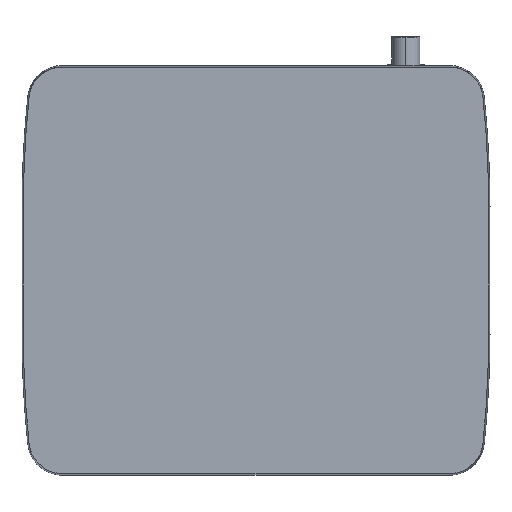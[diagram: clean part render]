
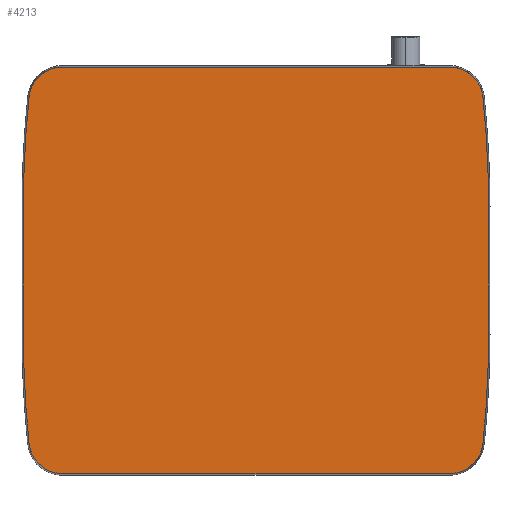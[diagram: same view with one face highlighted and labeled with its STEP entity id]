
A CAD part, top view. The second image highlights one B-rep face of the part: STEP entity #4213.
In plain terms, the highlighted planar face has unit normal (0, 0, 1).
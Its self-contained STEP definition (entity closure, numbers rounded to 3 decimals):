
#29 = EDGE_LOOP ( 'NONE', ( #4471, #1326, #7029, #5196, #6740, #6282, #7247, #358, #3470, #7224, #1792, #5540 ) ) ;
#69 = DIRECTION ( 'NONE',  ( 1., 0., 0. ) ) ;
#147 = AXIS2_PLACEMENT_3D ( 'NONE', #6494, #3101, #7058 ) ;
#223 = CIRCLE ( 'NONE', #717, 14.389 ) ;
#290 = DIRECTION ( 'NONE',  ( -1., 0., 0. ) ) ;
#342 = CARTESIAN_POINT ( 'NONE',  ( 99.248, 7.968, 35. ) ) ;
#358 = ORIENTED_EDGE ( 'NONE', *, *, #425, .T. ) ;
#425 = EDGE_CURVE ( 'NONE', #6974, #668, #2816, .T. ) ;
#487 = DIRECTION ( 'NONE',  ( 0., 0., 1. ) ) ;
#607 = CARTESIAN_POINT ( 'NONE',  ( 96.989, 73.982, 35. ) ) ;
#668 = VERTEX_POINT ( 'NONE', #1586 ) ;
#717 = AXIS2_PLACEMENT_3D ( 'NONE', #3179, #7129, #3752 ) ;
#889 = VECTOR ( 'NONE', #290, 1000. ) ;
#898 = CIRCLE ( 'NONE', #1467, 451.374 ) ;
#911 = EDGE_CURVE ( 'NONE', #6176, #4992, #5938, .T. ) ;
#996 = VERTEX_POINT ( 'NONE', #6996 ) ;
#1013 = DIRECTION ( 'NONE',  ( 0., 0., 1. ) ) ;
#1020 = DIRECTION ( 'NONE',  ( 0., 0., 1. ) ) ;
#1065 = AXIS2_PLACEMENT_3D ( 'NONE', #6356, #2984, #6925 ) ;
#1326 = ORIENTED_EDGE ( 'NONE', *, *, #3651, .T. ) ;
#1438 = EDGE_CURVE ( 'NONE', #5011, #1884, #4438, .T. ) ;
#1451 = EDGE_CURVE ( 'NONE', #2453, #6892, #5934, .T. ) ;
#1467 = AXIS2_PLACEMENT_3D ( 'NONE', #6861, #3479, #69 ) ;
#1484 = CARTESIAN_POINT ( 'NONE',  ( 99.375, 23.903, 35. ) ) ;
#1557 = CARTESIAN_POINT ( 'NONE',  ( -82.677, 72.5, 35. ) ) ;
#1586 = CARTESIAN_POINT ( 'NONE',  ( 99.375, 23.903, 35. ) ) ;
#1621 = CIRCLE ( 'NONE', #1065, 451.374 ) ;
#1691 = CIRCLE ( 'NONE', #7025, 451.374 ) ;
#1792 = ORIENTED_EDGE ( 'NONE', *, *, #6514, .T. ) ;
#1840 = CARTESIAN_POINT ( 'NONE',  ( 82.677, -86.889, 35. ) ) ;
#1846 = CARTESIAN_POINT ( 'NONE',  ( -82.677, -86.889, 35. ) ) ;
#1884 = VERTEX_POINT ( 'NONE', #3380 ) ;
#1956 = CARTESIAN_POINT ( 'NONE',  ( -99.248, -7.968, 35. ) ) ;
#2127 = DIRECTION ( 'NONE',  ( 1., 0., 0. ) ) ;
#2250 = EDGE_CURVE ( 'NONE', #996, #6176, #223, .T. ) ;
#2264 = CIRCLE ( 'NONE', #147, 451.374 ) ;
#2309 = VERTEX_POINT ( 'NONE', #6096 ) ;
#2331 = CIRCLE ( 'NONE', #4420, 14.389 ) ;
#2355 = CARTESIAN_POINT ( 'NONE',  ( 82.677, 86.889, 35. ) ) ;
#2423 = CARTESIAN_POINT ( 'NONE',  ( -82.677, 86.889, 35. ) ) ;
#2453 = VERTEX_POINT ( 'NONE', #607 ) ;
#2633 = DIRECTION ( 'NONE',  ( 0., 0., 1. ) ) ;
#2782 = CARTESIAN_POINT ( 'NONE',  ( -82.677, -86.889, 35. ) ) ;
#2816 = B_SPLINE_CURVE_WITH_KNOTS ( 'NONE', 3,
 ( #4884, #5982, #342, #1484 ),
 .UNSPECIFIED., .F., .F.,
 ( 4, 4 ),
 ( 0., 0.048 ),
 .UNSPECIFIED. ) ;
#2984 = DIRECTION ( 'NONE',  ( 0., 0., 1. ) ) ;
#2997 = AXIS2_PLACEMENT_3D ( 'NONE', #6024, #2633, #6584 ) ;
#3007 = CARTESIAN_POINT ( 'NONE',  ( 99.375, -23.903, 35. ) ) ;
#3101 = DIRECTION ( 'NONE',  ( 0., 0., 1. ) ) ;
#3144 = PLANE ( 'NONE',  #2997 ) ;
#3179 = CARTESIAN_POINT ( 'NONE',  ( -82.677, -72.5, 35. ) ) ;
#3343 = EDGE_CURVE ( 'NONE', #668, #2453, #2264, .T. ) ;
#3380 = CARTESIAN_POINT ( 'NONE',  ( -96.989, 73.982, 35. ) ) ;
#3470 = ORIENTED_EDGE ( 'NONE', *, *, #3343, .T. ) ;
#3479 = DIRECTION ( 'NONE',  ( 0., 0., 1. ) ) ;
#3651 = EDGE_CURVE ( 'NONE', #2309, #4164, #5013, .T. ) ;
#3699 = CARTESIAN_POINT ( 'NONE',  ( -82.677, 86.889, 35. ) ) ;
#3752 = DIRECTION ( 'NONE',  ( 1., 0., 0. ) ) ;
#3823 = EDGE_CURVE ( 'NONE', #4992, #4693, #2331, .T. ) ;
#3879 = CARTESIAN_POINT ( 'NONE',  ( 351.985, -27.5, 35. ) ) ;
#4164 = VERTEX_POINT ( 'NONE', #4277 ) ;
#4213 = ADVANCED_FACE ( 'NONE', ( #6233 ), #3144, .T. ) ;
#4216 = CARTESIAN_POINT ( 'NONE',  ( -99.375, 23.903, 35. ) ) ;
#4277 = CARTESIAN_POINT ( 'NONE',  ( -99.375, -23.903, 35. ) ) ;
#4398 = CARTESIAN_POINT ( 'NONE',  ( 82.677, -72.5, 35. ) ) ;
#4403 = CARTESIAN_POINT ( 'NONE',  ( 82.677, 72.5, 35. ) ) ;
#4420 = AXIS2_PLACEMENT_3D ( 'NONE', #4398, #1013, #4971 ) ;
#4438 = CIRCLE ( 'NONE', #6520, 14.389 ) ;
#4441 = DIRECTION ( 'NONE',  ( 1., 0., 0. ) ) ;
#4471 = ORIENTED_EDGE ( 'NONE', *, *, #6951, .T. ) ;
#4693 = VERTEX_POINT ( 'NONE', #6168 ) ;
#4785 = CARTESIAN_POINT ( 'NONE',  ( -99.248, 7.968, 35. ) ) ;
#4884 = CARTESIAN_POINT ( 'NONE',  ( 99.375, -23.903, 35. ) ) ;
#4971 = DIRECTION ( 'NONE',  ( 1., 0., 0. ) ) ;
#4976 = DIRECTION ( 'NONE',  ( 1., 0., 0. ) ) ;
#4992 = VERTEX_POINT ( 'NONE', #1840 ) ;
#5011 = VERTEX_POINT ( 'NONE', #2423 ) ;
#5013 = B_SPLINE_CURVE_WITH_KNOTS ( 'NONE', 3,
 ( #4216, #4785, #1956, #5925 ),
 .UNSPECIFIED., .F., .F.,
 ( 4, 4 ),
 ( 0., 0.048 ),
 .UNSPECIFIED. ) ;
#5196 = ORIENTED_EDGE ( 'NONE', *, *, #2250, .T. ) ;
#5522 = DIRECTION ( 'NONE',  ( 0., 0., 1. ) ) ;
#5540 = ORIENTED_EDGE ( 'NONE', *, *, #1438, .T. ) ;
#5818 = DIRECTION ( 'NONE',  ( 1., 0., 0. ) ) ;
#5925 = CARTESIAN_POINT ( 'NONE',  ( -99.375, -23.903, 35. ) ) ;
#5934 = CIRCLE ( 'NONE', #7293, 14.389 ) ;
#5938 = LINE ( 'NONE', #1846, #7277 ) ;
#5939 = EDGE_CURVE ( 'NONE', #4693, #6974, #898, .T. ) ;
#5982 = CARTESIAN_POINT ( 'NONE',  ( 99.248, -7.968, 35. ) ) ;
#6024 = CARTESIAN_POINT ( 'NONE',  ( -82.677, -17.5, 35. ) ) ;
#6096 = CARTESIAN_POINT ( 'NONE',  ( -99.375, 23.903, 35. ) ) ;
#6168 = CARTESIAN_POINT ( 'NONE',  ( 96.989, -73.982, 35. ) ) ;
#6176 = VERTEX_POINT ( 'NONE', #2782 ) ;
#6233 = FACE_OUTER_BOUND ( 'NONE', #29, .T. ) ;
#6282 = ORIENTED_EDGE ( 'NONE', *, *, #3823, .T. ) ;
#6356 = CARTESIAN_POINT ( 'NONE',  ( 351.985, 27.5, 35. ) ) ;
#6494 = CARTESIAN_POINT ( 'NONE',  ( -351.985, 27.5, 35. ) ) ;
#6514 = EDGE_CURVE ( 'NONE', #6892, #5011, #6748, .T. ) ;
#6520 = AXIS2_PLACEMENT_3D ( 'NONE', #1557, #5522, #2127 ) ;
#6584 = DIRECTION ( 'NONE',  ( 1., 0., 0. ) ) ;
#6709 = EDGE_CURVE ( 'NONE', #4164, #996, #1691, .T. ) ;
#6740 = ORIENTED_EDGE ( 'NONE', *, *, #911, .T. ) ;
#6748 = LINE ( 'NONE', #3699, #889 ) ;
#6861 = CARTESIAN_POINT ( 'NONE',  ( -351.985, -27.5, 35. ) ) ;
#6892 = VERTEX_POINT ( 'NONE', #2355 ) ;
#6925 = DIRECTION ( 'NONE',  ( 1., 0., 0. ) ) ;
#6951 = EDGE_CURVE ( 'NONE', #1884, #2309, #1621, .T. ) ;
#6974 = VERTEX_POINT ( 'NONE', #3007 ) ;
#6996 = CARTESIAN_POINT ( 'NONE',  ( -96.989, -73.982, 35. ) ) ;
#7025 = AXIS2_PLACEMENT_3D ( 'NONE', #3879, #487, #4441 ) ;
#7029 = ORIENTED_EDGE ( 'NONE', *, *, #6709, .T. ) ;
#7058 = DIRECTION ( 'NONE',  ( 1., 0., 0. ) ) ;
#7129 = DIRECTION ( 'NONE',  ( 0., 0., 1. ) ) ;
#7224 = ORIENTED_EDGE ( 'NONE', *, *, #1451, .T. ) ;
#7247 = ORIENTED_EDGE ( 'NONE', *, *, #5939, .T. ) ;
#7277 = VECTOR ( 'NONE', #5818, 1000. ) ;
#7293 = AXIS2_PLACEMENT_3D ( 'NONE', #4403, #1020, #4976 ) ;
